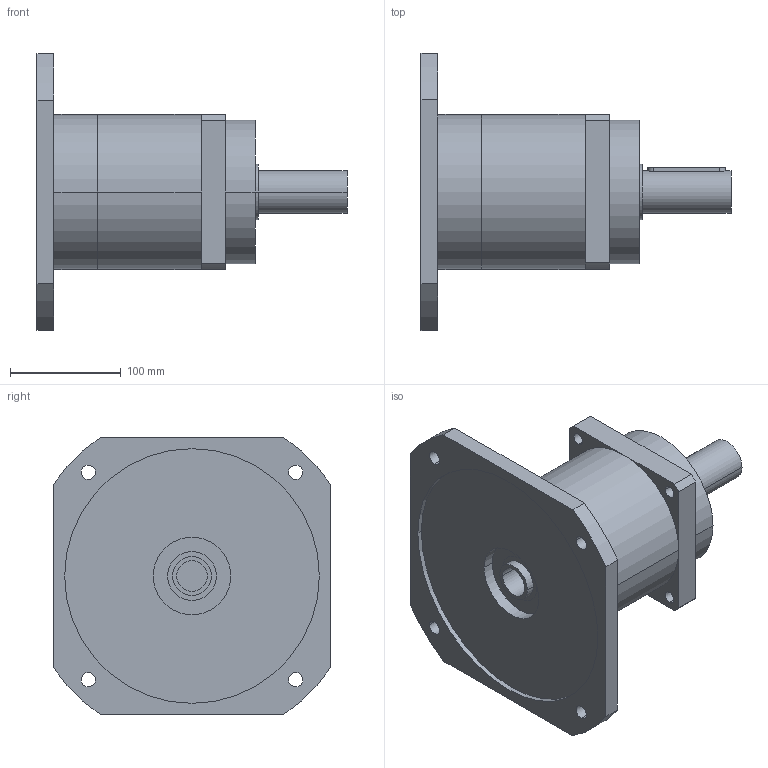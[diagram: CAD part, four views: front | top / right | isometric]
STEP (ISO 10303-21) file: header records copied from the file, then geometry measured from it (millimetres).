
FILE_DESCRIPTION(('CoCreate Modeling STEP Export'),'2;1');
FILE_NAME('GPR150_ig-3-4-5-7_38_B5_28_P07.stp','2014-08-19T16:42:43',(''),(''),'CoCreate Modeling STEP processor for AP214 (Solid Model)','CoCreate Modeling 16.00C 25-Feb-2009 (C) Parametric Technology GmbH','');
FILE_SCHEMA(('AUTOMOTIVE_DESIGN { 1 0 10303 214 1 1 1 1 }'));
Length unit declared in the file: millimetre
Products named in the file (2): GPR150_ig-3-4-5-7_38_B5_28_P07
Assembly tree (1 placements, depth 2):
  GPR150_ig-3-4-5-7_38_B5_28_P07
    GPR150_ig-3-4-5-7_38_B5_28_P07
Bounding box: 280 x 250 x 250 mm (x, y, z)
Volume: 3540767.9 mm3; surface area: 250514.4 mm2
Topology: 1 solids, 1 shells, 81 faces, 220 edges, 150 vertices
Faces by surface type: cylinder 48, plane 27, cone 6
Entity records: 2325 total; most frequent: ORIENTED_EDGE 436, CARTESIAN_POINT 431, DIRECTION 330, EDGE_CURVE 218, VERTEX_POINT 150, AXIS2_PLACEMENT_3D 121, EDGE_LOOP 108, VECTOR 88
